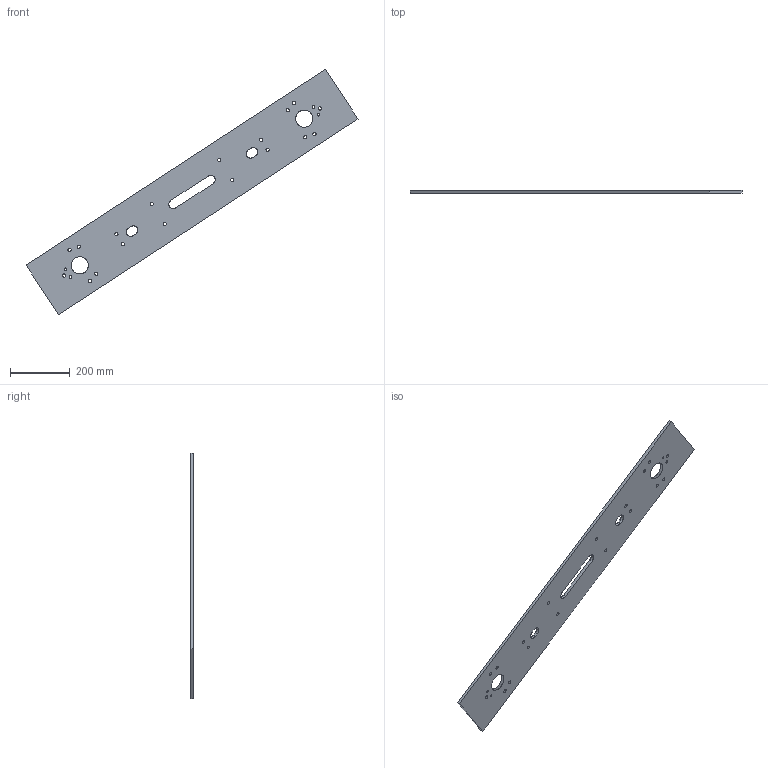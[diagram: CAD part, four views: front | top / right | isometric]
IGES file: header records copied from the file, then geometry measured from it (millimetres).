
Start section: SolidWorks IGES FILE using analytic representation for surfaces
Global section: file name: Plaque_support.IGS; native system: SolidWorks 2003 by SolidWorks Corporation; preprocessor: Version 5.3; author: sujet; date: 040213.102538; units: millimetre
Bounding box: 1113.99 x 10 x 823.77 mm (x, y, z)
Surface area: 485341.8 mm2 (no closed solid volume)
Topology: 0 solids, 0 shells, 20 faces, 1092 edges, 1092 vertices
Faces by surface type: bspline 12, revolution 8
